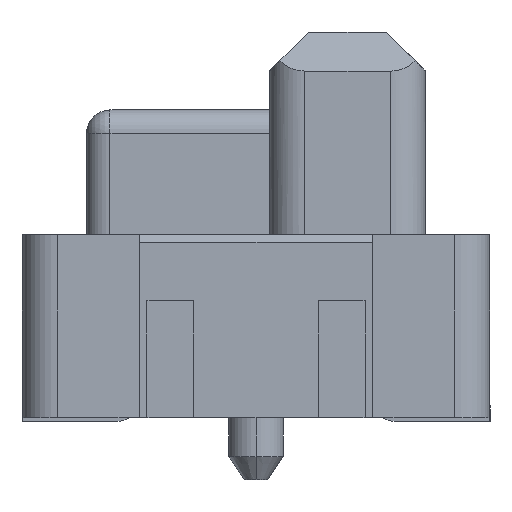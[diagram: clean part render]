
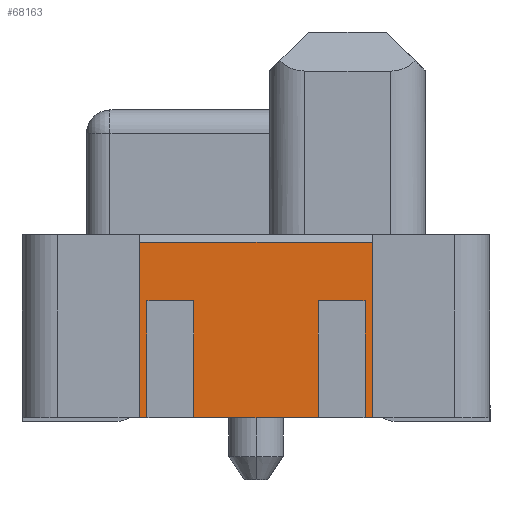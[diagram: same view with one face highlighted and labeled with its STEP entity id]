
A CAD part, left-side view. The second image highlights one B-rep face of the part: STEP entity #68163.
In plain terms, the highlighted planar face has unit normal (-1, 0, 0).
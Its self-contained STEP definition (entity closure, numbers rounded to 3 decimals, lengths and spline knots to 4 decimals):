
#139 = CARTESIAN_POINT ( 'NONE',  ( -6.9, -1.4, -4.475 ) ) ;
#1813 = EDGE_LOOP ( 'NONE', ( #32525, #64796, #48061, #36029, #31814, #28635, #17816, #6134, #27996, #36330, #7861, #15970 ) ) ;
#2602 = DIRECTION ( 'NONE',  ( 0., 1., 0. ) ) ;
#2871 = CARTESIAN_POINT ( 'NONE',  ( -6.9, -0.8, -4.475 ) ) ;
#2952 = CARTESIAN_POINT ( 'NONE',  ( -6.9, -2.25, -4.475 ) ) ;
#3086 = VERTEX_POINT ( 'NONE', #67188 ) ;
#3222 = DIRECTION ( 'NONE',  ( 0., 0., 1. ) ) ;
#4047 = AXIS2_PLACEMENT_3D ( 'NONE', #23771, #39732, #35538 ) ;
#6134 = ORIENTED_EDGE ( 'NONE', *, *, #37657, .T. ) ;
#6911 = EDGE_CURVE ( 'NONE', #8659, #33144, #24446, .T. ) ;
#7861 = ORIENTED_EDGE ( 'NONE', *, *, #45936, .F. ) ;
#8067 = CARTESIAN_POINT ( 'NONE',  ( -6.9, 2.25, -4.475 ) ) ;
#8324 = VERTEX_POINT ( 'NONE', #26835 ) ;
#8639 = CARTESIAN_POINT ( 'NONE',  ( -6.9, 1.4, -4.475 ) ) ;
#8659 = VERTEX_POINT ( 'NONE', #29938 ) ;
#9419 = CARTESIAN_POINT ( 'NONE',  ( -6.9, -0.8, -4.475 ) ) ;
#12522 = VECTOR ( 'NONE', #50809, 1000. ) ;
#13702 = CARTESIAN_POINT ( 'NONE',  ( -6.9, 0.8, -2.975 ) ) ;
#14294 = LINE ( 'NONE', #8067, #18467 ) ;
#14702 = CARTESIAN_POINT ( 'NONE',  ( -6.9, -1.4, -2.975 ) ) ;
#14965 = DIRECTION ( 'NONE',  ( 0., 1., 0. ) ) ;
#15527 = VECTOR ( 'NONE', #30387, 1000. ) ;
#15886 = CARTESIAN_POINT ( 'NONE',  ( -6.9, 2.25, -2.225 ) ) ;
#15970 = ORIENTED_EDGE ( 'NONE', *, *, #68366, .T. ) ;
#17575 = VERTEX_POINT ( 'NONE', #61732 ) ;
#17816 = ORIENTED_EDGE ( 'NONE', *, *, #65925, .F. ) ;
#18467 = VECTOR ( 'NONE', #3222, 1000. ) ;
#18561 = LINE ( 'NONE', #2952, #65755 ) ;
#18903 = DIRECTION ( 'NONE',  ( 0., 0., -1. ) ) ;
#19547 = VECTOR ( 'NONE', #53539, 1000. ) ;
#20319 = DIRECTION ( 'NONE',  ( 0., 0., 1. ) ) ;
#20970 = LINE ( 'NONE', #41114, #15527 ) ;
#22856 = VERTEX_POINT ( 'NONE', #15886 ) ;
#23716 = VECTOR ( 'NONE', #66230, 1000. ) ;
#23771 = CARTESIAN_POINT ( 'NONE',  ( -6.9, -1.825, -3.8 ) ) ;
#24446 = LINE ( 'NONE', #14702, #60634 ) ;
#24452 = FACE_OUTER_BOUND ( 'NONE', #1813, .T. ) ;
#24585 = LINE ( 'NONE', #8639, #54760 ) ;
#25032 = LINE ( 'NONE', #9419, #61656 ) ;
#25199 = LINE ( 'NONE', #36625, #63566 ) ;
#25841 = VECTOR ( 'NONE', #66421, 1000. ) ;
#26835 = CARTESIAN_POINT ( 'NONE',  ( -6.9, 2.25, -4.475 ) ) ;
#27996 = ORIENTED_EDGE ( 'NONE', *, *, #43922, .T. ) ;
#28635 = ORIENTED_EDGE ( 'NONE', *, *, #68532, .F. ) ;
#29122 = LINE ( 'NONE', #45083, #23716 ) ;
#29328 = LINE ( 'NONE', #61559, #25841 ) ;
#29938 = CARTESIAN_POINT ( 'NONE',  ( -6.9, -1.4, -2.975 ) ) ;
#30387 = DIRECTION ( 'NONE',  ( 0., -1., 0. ) ) ;
#31814 = ORIENTED_EDGE ( 'NONE', *, *, #40739, .T. ) ;
#32525 = ORIENTED_EDGE ( 'NONE', *, *, #60231, .T. ) ;
#32653 = VERTEX_POINT ( 'NONE', #48092 ) ;
#33144 = VERTEX_POINT ( 'NONE', #139 ) ;
#35538 = DIRECTION ( 'NONE',  ( 0., 1., 0. ) ) ;
#36029 = ORIENTED_EDGE ( 'NONE', *, *, #55735, .F. ) ;
#36330 = ORIENTED_EDGE ( 'NONE', *, *, #55664, .T. ) ;
#36625 = CARTESIAN_POINT ( 'NONE',  ( -6.9, 1.4, -4.475 ) ) ;
#37657 = EDGE_CURVE ( 'NONE', #54155, #63031, #25199, .T. ) ;
#37871 = EDGE_CURVE ( 'NONE', #3086, #33144, #18561, .T. ) ;
#39456 = VERTEX_POINT ( 'NONE', #52672 ) ;
#39732 = DIRECTION ( 'NONE',  ( 1., 0., 0. ) ) ;
#40289 = CARTESIAN_POINT ( 'NONE',  ( -6.9, 0.8, -4.475 ) ) ;
#40561 = DIRECTION ( 'NONE',  ( 0., 1., 0. ) ) ;
#40739 = EDGE_CURVE ( 'NONE', #32653, #22856, #44326, .T. ) ;
#40874 = CARTESIAN_POINT ( 'NONE',  ( -6.9, 1.4, -2.975 ) ) ;
#41114 = CARTESIAN_POINT ( 'NONE',  ( -6.9, -0.8, -2.975 ) ) ;
#43922 = EDGE_CURVE ( 'NONE', #63031, #39456, #29122, .T. ) ;
#43985 = CARTESIAN_POINT ( 'NONE',  ( -6.9, -2.25, -2.225 ) ) ;
#44326 = LINE ( 'NONE', #43985, #44619 ) ;
#44619 = VECTOR ( 'NONE', #64797, 1000. ) ;
#45083 = CARTESIAN_POINT ( 'NONE',  ( -6.9, 1.4, -2.975 ) ) ;
#45936 = EDGE_CURVE ( 'NONE', #49884, #46487, #25032, .T. ) ;
#46487 = VERTEX_POINT ( 'NONE', #40289 ) ;
#48061 = ORIENTED_EDGE ( 'NONE', *, *, #37871, .F. ) ;
#48092 = CARTESIAN_POINT ( 'NONE',  ( -6.9, -2.25, -2.225 ) ) ;
#48131 = CARTESIAN_POINT ( 'NONE',  ( -6.9, 1.4, -4.475 ) ) ;
#49884 = VERTEX_POINT ( 'NONE', #2871 ) ;
#50809 = DIRECTION ( 'NONE',  ( 0., 0., -1. ) ) ;
#52672 = CARTESIAN_POINT ( 'NONE',  ( -6.9, 0.8, -2.975 ) ) ;
#53539 = DIRECTION ( 'NONE',  ( 0., 0., 1. ) ) ;
#54155 = VERTEX_POINT ( 'NONE', #48131 ) ;
#54553 = CARTESIAN_POINT ( 'NONE',  ( -6.9, -0.8, -4.475 ) ) ;
#54760 = VECTOR ( 'NONE', #40561, 1000. ) ;
#55664 = EDGE_CURVE ( 'NONE', #39456, #46487, #64779, .T. ) ;
#55735 = EDGE_CURVE ( 'NONE', #32653, #3086, #29328, .T. ) ;
#60231 = EDGE_CURVE ( 'NONE', #17575, #8659, #20970, .T. ) ;
#60459 = LINE ( 'NONE', #54553, #19547 ) ;
#60634 = VECTOR ( 'NONE', #18903, 1000. ) ;
#61229 = PLANE ( 'NONE',  #4047 ) ;
#61559 = CARTESIAN_POINT ( 'NONE',  ( -6.9, -2.25, -2.225 ) ) ;
#61656 = VECTOR ( 'NONE', #14965, 1000. ) ;
#61732 = CARTESIAN_POINT ( 'NONE',  ( -6.9, -0.8, -2.975 ) ) ;
#63031 = VERTEX_POINT ( 'NONE', #40874 ) ;
#63566 = VECTOR ( 'NONE', #20319, 1000. ) ;
#64779 = LINE ( 'NONE', #13702, #12522 ) ;
#64796 = ORIENTED_EDGE ( 'NONE', *, *, #6911, .T. ) ;
#64797 = DIRECTION ( 'NONE',  ( 0., 1., 0. ) ) ;
#65755 = VECTOR ( 'NONE', #2602, 1000. ) ;
#65925 = EDGE_CURVE ( 'NONE', #54155, #8324, #24585, .T. ) ;
#66230 = DIRECTION ( 'NONE',  ( 0., -1., 0. ) ) ;
#66421 = DIRECTION ( 'NONE',  ( 0., 0., -1. ) ) ;
#67188 = CARTESIAN_POINT ( 'NONE',  ( -6.9, -2.25, -4.475 ) ) ;
#68163 = ADVANCED_FACE ( 'NONE', ( #24452 ), #61229, .F. ) ;
#68366 = EDGE_CURVE ( 'NONE', #49884, #17575, #60459, .T. ) ;
#68532 = EDGE_CURVE ( 'NONE', #8324, #22856, #14294, .T. ) ;
